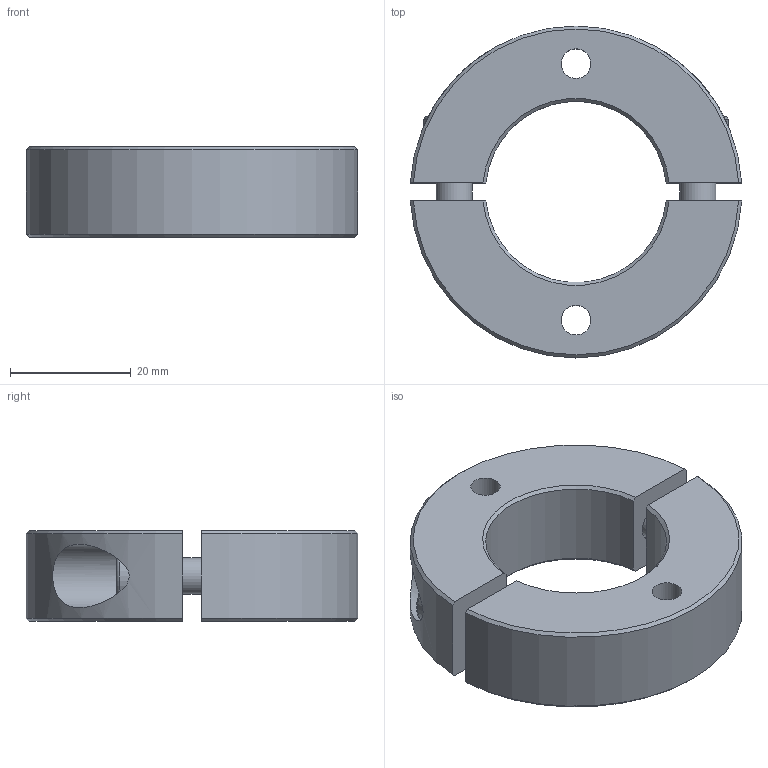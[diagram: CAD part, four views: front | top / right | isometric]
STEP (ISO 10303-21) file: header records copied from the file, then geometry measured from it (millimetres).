
FILE_DESCRIPTION( ( 'STEP AP203' ), '1' );
FILE_NAME( 'C:/Temp/Ganter_Step_05_03_2020/data/3_2/gn7072_2/Split Stainless Steel-Set collar GN 7072.2-55-B30-NI-C.stp', '2020-03-13T05:41:09', ( 'License CC BY-ND 4.0' ), ( 'CADENAS' ), ' ', 'PARTsolutions', ' ' );
FILE_SCHEMA( ( 'CONFIG_CONTROL_DESIGN' ) );
Length unit declared in the file: millimetre
Products named in the file (1): _Split Stainless Steel-Set collar GN 7072.2-55-B30-NI-C
Bounding box: 54.92 x 55 x 15 mm (x, y, z)
Volume: 22135.8 mm3; surface area: 9537.8 mm2
Topology: 1 solids, 1 shells, 52 faces, 124 edges, 84 vertices
Faces by surface type: plane 28, cylinder 14, cone 8, torus 2
Full cylindrical faces by diameter (mm): 4.917 x2, 6 x2, 6.4 x2, 10 x2, 10.5 x2
Entity records: 1632 total; most frequent: CARTESIAN_POINT 447, DIRECTION 230, ORIENTED_EDGE 212, EDGE_CURVE 106, AXIS2_PLACEMENT_3D 89, EDGE_LOOP 80, VERTEX_POINT 78, FACE_OUTER_BOUND 64
